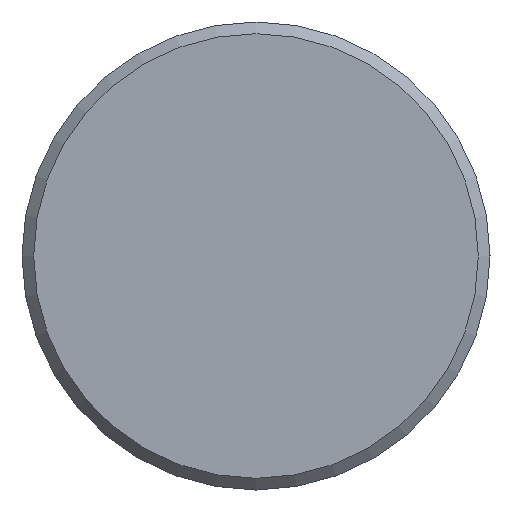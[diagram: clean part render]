
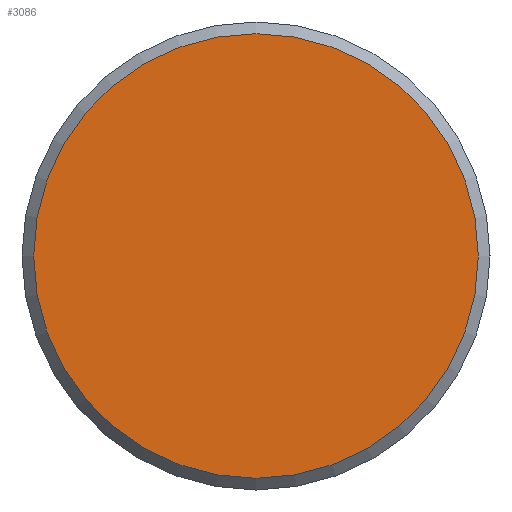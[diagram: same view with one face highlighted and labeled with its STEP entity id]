
A CAD part, left-side view. The second image highlights one B-rep face of the part: STEP entity #3086.
In plain terms, the highlighted planar face has unit normal (-1, 0, 0).
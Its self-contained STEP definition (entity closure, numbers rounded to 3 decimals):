
#1113=PLANE('',#2842);
#1159=ORIENTED_EDGE('',*,*,#1571,.F.);
#1363=CIRCLE('',#2841,9.5);
#1467=VERTEX_POINT('',#2526);
#1571=EDGE_CURVE('',#1467,#1467,#1363,.T.);
#1679=EDGE_LOOP('',(#1159));
#1887=FACE_BOUND('',#1679,.T.);
#2102=DIRECTION('',(1.,0.,0.));
#2103=DIRECTION('',(0.,-9.5,0.));
#2104=DIRECTION('',(-1.,0.,0.));
#2105=DIRECTION('',(0.,1.,0.));
#2526=CARTESIAN_POINT('',(30.837,35.478,0.));
#2527=CARTESIAN_POINT('',(30.837,44.978,0.));
#2528=CARTESIAN_POINT('',(30.837,44.978,0.));
#2841=AXIS2_PLACEMENT_3D('',#2527,#2102,#2103);
#2842=AXIS2_PLACEMENT_3D('',#2528,#2104,#2105);
#3086=ADVANCED_FACE('',(#1887),#1113,.T.);
